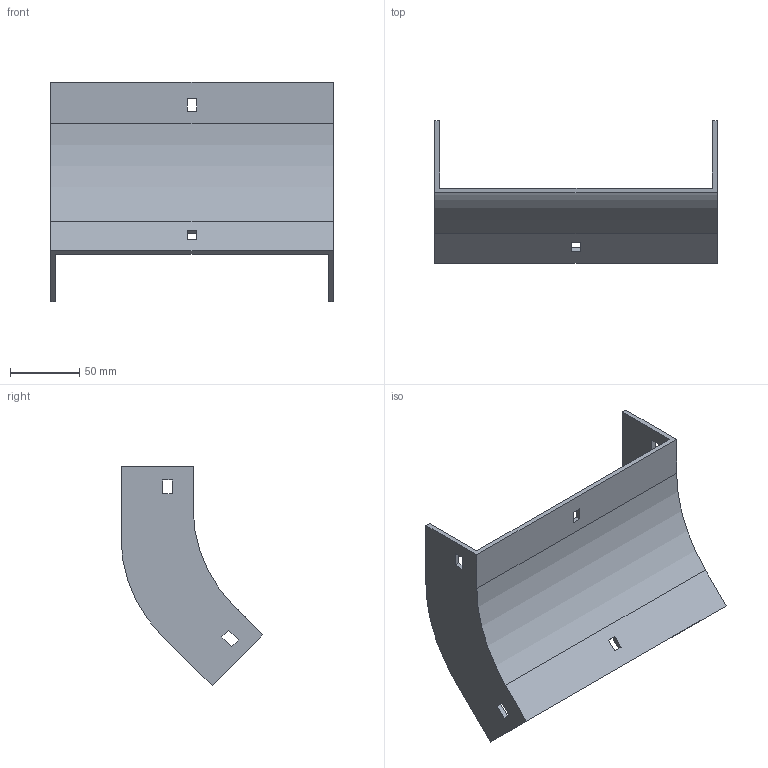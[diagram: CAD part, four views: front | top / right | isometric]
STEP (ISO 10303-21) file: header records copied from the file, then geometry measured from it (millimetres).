
FILE_DESCRIPTION (( 'STEP AP214' ), '1' );
FILE_NAME ('34F1B200.step', '2025-02-21T12:50:55', ( '' ), ( '' ), 'SwSTEP 2.0', 'SolidWorks 2023', '' );
FILE_SCHEMA (( 'AUTOMOTIVE_DESIGN' ));
Length unit declared in the file: millimetre
Products named in the file (1): 34F1B200
Bounding box: 204 x 102.5 x 158.69 mm (x, y, z)
Volume: 154916.4 mm3; surface area: 92585.3 mm2
Topology: 1 solids, 1 shells, 42 faces, 120 edges, 80 vertices
Faces by surface type: plane 38, cylinder 4
Entity records: 1399 total; most frequent: CARTESIAN_POINT 243, ORIENTED_EDGE 240, DIRECTION 214, EDGE_CURVE 120, LINE 112, VECTOR 112, VERTEX_POINT 80, EDGE_LOOP 54
